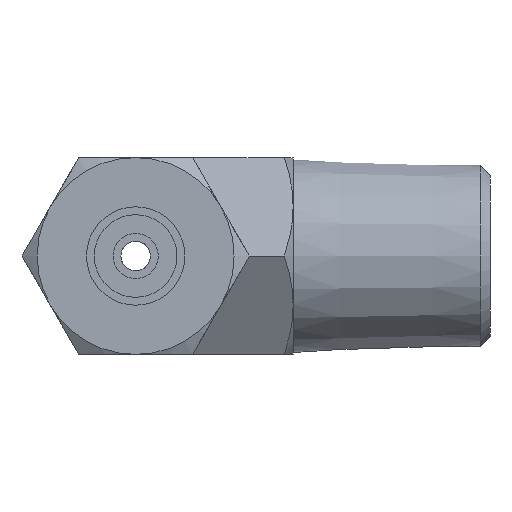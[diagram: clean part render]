
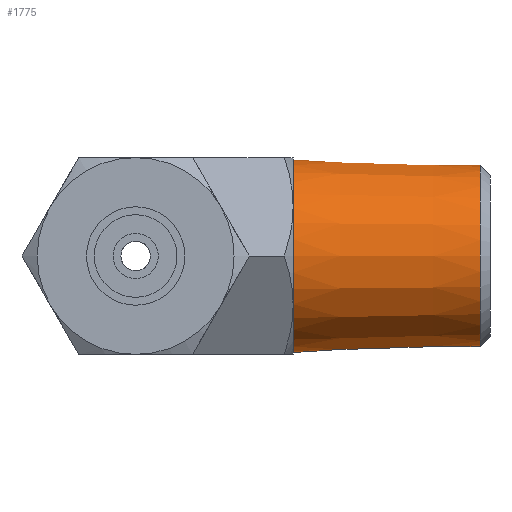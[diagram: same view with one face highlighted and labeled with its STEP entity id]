
A CAD part, left-side view. The second image highlights one B-rep face of the part: STEP entity #1775.
In plain terms, the highlighted conical face has half-angle 1.79 degrees and reference radius 4.752 mm.
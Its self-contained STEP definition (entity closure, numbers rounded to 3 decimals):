
#339=CONICAL_SURFACE('',#1973,4.752,1.79);
#366=FACE_BOUND('',#707,.T.);
#386=CIRCLE('',#1821,4.9);
#444=CIRCLE('',#1972,4.603);
#562=FACE_OUTER_BOUND('',#706,.T.);
#706=EDGE_LOOP('',(#1645));
#707=EDGE_LOOP('',(#1646));
#757=VERTEX_POINT('',#2652);
#875=VERTEX_POINT('',#3285);
#934=EDGE_CURVE('',#757,#757,#386,.T.);
#1132=EDGE_CURVE('',#875,#875,#444,.T.);
#1645=ORIENTED_EDGE('',*,*,#934,.F.);
#1646=ORIENTED_EDGE('',*,*,#1132,.T.);
#1775=ADVANCED_FACE('',(#562,#366),#339,.T.);
#1821=AXIS2_PLACEMENT_3D('',#2653,#2077,#2078);
#1972=AXIS2_PLACEMENT_3D('',#3286,#2407,#2408);
#1973=AXIS2_PLACEMENT_3D('',#3287,#2409,#2410);
#2077=DIRECTION('center_axis',(0.,1.,0.));
#2078=DIRECTION('ref_axis',(-1.,0.,0.));
#2407=DIRECTION('center_axis',(0.,1.,0.));
#2408=DIRECTION('ref_axis',(-1.,0.,0.));
#2409=DIRECTION('center_axis',(0.,1.,0.));
#2410=DIRECTION('ref_axis',(-1.,0.,0.));
#2652=CARTESIAN_POINT('',(-4.9,10.,0.));
#2653=CARTESIAN_POINT('Origin',(0.,10.,0.));
#3285=CARTESIAN_POINT('',(-4.603,0.5,0.));
#3286=CARTESIAN_POINT('Origin',(0.,0.5,0.));
#3287=CARTESIAN_POINT('Origin',(0.,5.25,0.));
